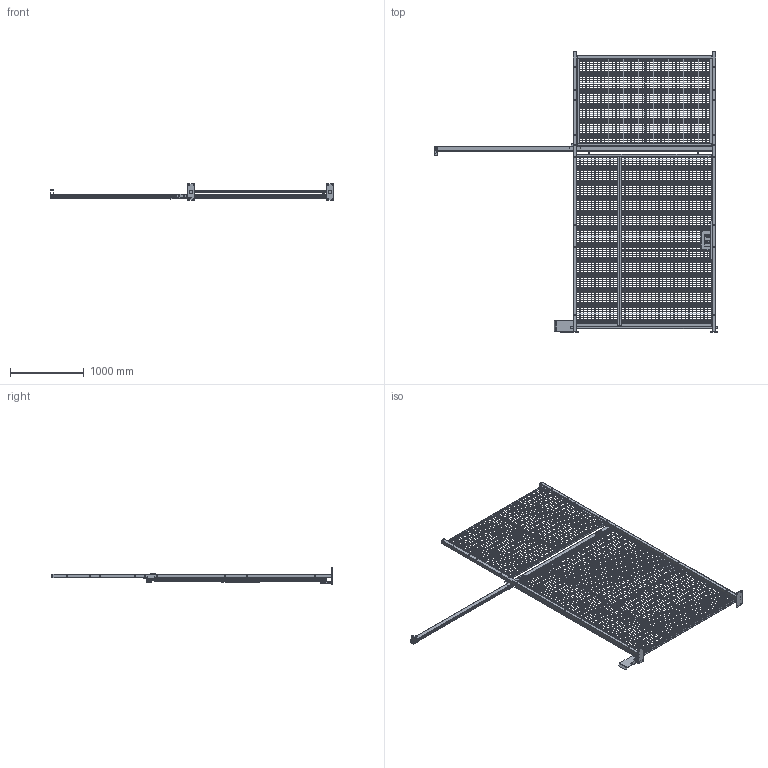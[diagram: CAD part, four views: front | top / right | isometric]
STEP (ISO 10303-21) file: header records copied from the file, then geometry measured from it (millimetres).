
FILE_DESCRIPTION (( 'STEP AP214' ), '1' );
FILE_NAME ('SD6812LHI.STEP', '2021-03-31T13:16:07', ( '' ), ( '' ), 'SwSTEP 2.0', 'SolidWorks 2021', '' );
FILE_SCHEMA (( 'AUTOMOTIVE_DESIGN' ));
Length unit declared in the file: inch
Products named in the file (52): SDRECB; COMMON 840 PANEL FRAME_64; COMMON WIRE_10GA X 90.5; SDSCH412238; COMMON WIRE_10GA X 49; SGDG12; COMMON SD TRK_SDTRK12; FS12412TMS; COMMON STRU ANGLE 11418_PXL2PC; SDDEPCH; HDLKPLATEF; COMMON STRU ANGLE 11418_PX6; COMMON 840 SD TRK ASSEMBLY_SD TRK12 LHI; COMMON STRU ANGLE 11418_PX4PC; COMMON FLAT BAR_PXSD4FH; SDLKRECT; HDLKPLATEB; SDTJBKT-ANGLE; COMMON FLAT BAR_PXL2FH; COMMON FLAT BAR_PX4F; COMMON FLAT BAR_PXSDFV; SDTT4WH_NO BOLT; COMMON SD COVER BAR_SDCB1; COMMON WIRE_10GA X 71.5; SDRECA; SB-1; SF-1 LATCH; COMMON STRU ANGLE 11418_PXSD8PL; COMMON BASE PLATE_BP49; SDTCBKT; RTAPFL; COMMON MESH_MH64; SDLKCOV; COMMON MESH_SDL2; COMMON 840 SLIDE DOOR_SDL2; COMMON WIRE_10GA X 23; SDSDT_SDSDTLHI; COMMON MESH_MHSD4; SDTJBKT; COMMON STRU ANGLE 11418_PXSD8PX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
Assembly tree (359 placements, depth 5):
  SD6812LHI
    COMMON 840 POST WELD_DP12P  x2
      COMMON BASE PLATE_BP49
      COMMON 840 POST_DP12P
      POST CAP
    COMMON 840 SD TRK ASSEMBLY_SD TRK12 LHI
      COMMON SD TRK_SDTRK12
      SDTCBKT
      RTAPFL
      SDSDT_SDSDTLHI
    COMMON 840 SLIDE DOOR SUB_SD68LH
      COMMON 840 SLIDE DOOR_SD4-LH
        COMMON STRU ANGLE 11418_PXSD4PC  x2
        COMMON STRU ANGLE 11418_PXSD8PX
        COMMON STRU ANGLE 11418_PXSD8PL
        HDLKPLATEF
        HDLKPLATEB
        COMMON FLAT BAR_PXSD4FH  x2
        COMMON FLAT BAR_PXSDFV  x2
        SDLKCOV
        COMMON MESH_MHSD4
          COMMON WIRE_10GA X 49  x91
          COMMON WIRE_10GA X 90.5  x25
        SF-1 LATCH
          SF-1 LATCH
          SB-1
      COMMON 840 SLIDE DOOR_SDL2
        COMMON STRU ANGLE 11418_PXL2PC  x2
        COMMON STRU ANGLE 11418_PXSD8PX  x2
        COMMON MESH_SDL2
          COMMON WIRE_10GA X 23  x91
          COMMON WIRE_10GA X 90.5  x12
        COMMON FLAT BAR_PXL2FH
      SDDEPCH
    SDTT4WH_CUT BOLT  x2
      SDTT4WH_NO BOLT
      FS12412TMS
    COMMON 840 PANEL FRAME_64
      COMMON STRU ANGLE 11418_PX6  x2
      COMMON STRU ANGLE 11418_PX4PC  x2
      COMMON FLAT BAR_PX4F
      COMMON MESH_MH64
        COMMON WIRE_10GA X 71.5  x47
        COMMON WIRE_10GA X 47  x36
    SDTJBKT
      SDTJBKT-CHNNL
      SDTJBKT-ANGLE
    SGDG12
    SDSCH412238  x2
    SDREC
      SDRECB
      SDLKRECT
      SDRECA
    COMMON SD COVER BAR_SDCB1
Bounding box: 3836.14 x 3794.76 x 228.6 mm (x, y, z)
Volume: 13925870.5 mm3; surface area: 12470631.5 mm2
Topology: 362 solids, 368 shells, 3545 faces, 7506 edges, 4764 vertices
Faces by surface type: plane 1828, cylinder 1100, cone 365, bspline 188, torus 60, sphere 4
Full cylindrical faces by diameter (mm): 3.429 x302, 5.182 x4, 6.35 x4, 9.525 x174, 11.112 x10, 12.7 x78, 14.021 x1, 14.046 x1, 14.287 x12, 19.05 x2, 34.049 x1, 35.687 x1, 38.862 x1, 44.704 x1, 45.822 x1, 50.8 x8, 53.975 x8
Entity records: 81706 total; most frequent: CARTESIAN_POINT 33266, DIRECTION 9077, ORIENTED_EDGE 8742, EDGE_CURVE 4383, AXIS2_PLACEMENT_3D 3173, VERTEX_POINT 2942, VECTOR 2731, LINE 2731
